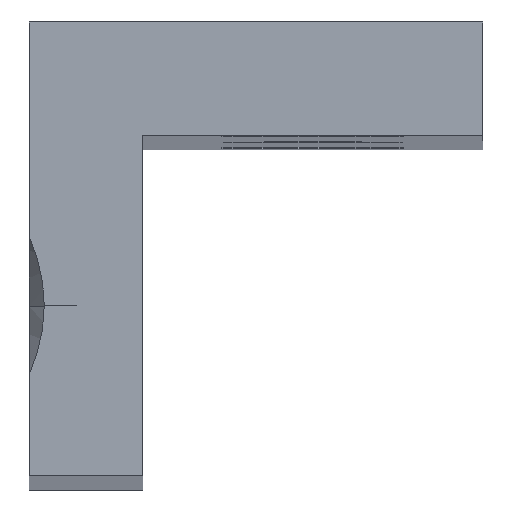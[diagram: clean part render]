
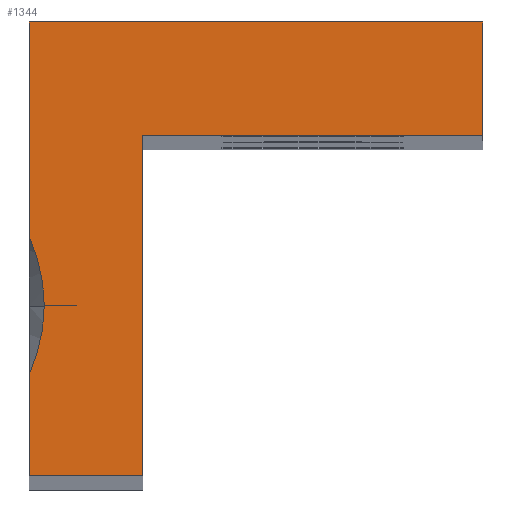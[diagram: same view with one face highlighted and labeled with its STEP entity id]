
A CAD part, top view. The second image highlights one B-rep face of the part: STEP entity #1344.
In plain terms, the highlighted planar face has unit normal (0, 0, 1).
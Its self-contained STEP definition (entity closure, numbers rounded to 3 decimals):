
#14 = CARTESIAN_POINT ( 'NONE',  ( -34.09, 29.629, 54. ) ) ;
#17 = EDGE_CURVE ( 'NONE', #1163, #19, #1199, .T. ) ;
#19 = VERTEX_POINT ( 'NONE', #438 ) ;
#22 = DIRECTION ( 'NONE',  ( 0., -1., 0. ) ) ;
#38 = CARTESIAN_POINT ( 'NONE',  ( -33.97, 30.087, 54. ) ) ;
#53 = CARTESIAN_POINT ( 'NONE',  ( -34.151, 31.317, 54. ) ) ;
#93 = AXIS2_PLACEMENT_3D ( 'NONE', #1129, #1522, #906 ) ;
#156 = ORIENTED_EDGE ( 'NONE', *, *, #213, .T. ) ;
#172 = EDGE_LOOP ( 'NONE', ( #695, #1554, #1563, #888, #569, #1530, #156, #1508, #747 ) ) ;
#175 = CARTESIAN_POINT ( 'NONE',  ( -34.151, 34.151, 54. ) ) ;
#188 = VERTEX_POINT ( 'NONE', #1123 ) ;
#208 = DIRECTION ( 'NONE',  ( 1., 0., 0. ) ) ;
#213 = EDGE_CURVE ( 'NONE', #1478, #1163, #1596, .T. ) ;
#233 = B_SPLINE_CURVE_WITH_KNOTS ( 'NONE', 3,
 ( #500, #1511, #38, #392, #14, #1266 ),
 .UNSPECIFIED., .F., .F.,
 ( 4, 2, 4 ),
 ( 0.008, 0.009, 0.009 ),
 .UNSPECIFIED. ) ;
#241 = VECTOR ( 'NONE', #22, 1000. ) ;
#260 = CARTESIAN_POINT ( 'NONE',  ( -32.651, 32.651, 54. ) ) ;
#277 = EDGE_CURVE ( 'NONE', #1342, #1242, #774, .T. ) ;
#291 = VECTOR ( 'NONE', #1460, 1000. ) ;
#380 = DIRECTION ( 'NONE',  ( 0., 1., 0. ) ) ;
#392 = CARTESIAN_POINT ( 'NONE',  ( -34.039, 29.781, 54. ) ) ;
#416 = CARTESIAN_POINT ( 'NONE',  ( -34.151, 31.317, 54. ) ) ;
#435 = CARTESIAN_POINT ( 'NONE',  ( -33.951, 30.401, 54. ) ) ;
#438 = CARTESIAN_POINT ( 'NONE',  ( -34.151, 34.151, 54. ) ) ;
#477 = DIRECTION ( 'NONE',  ( 0., 1., 0. ) ) ;
#479 = CARTESIAN_POINT ( 'NONE',  ( -28.151, 32.651, 54. ) ) ;
#500 = CARTESIAN_POINT ( 'NONE',  ( -33.951, 30.401, 54. ) ) ;
#516 = CARTESIAN_POINT ( 'NONE',  ( -34.151, 29.484, 54. ) ) ;
#529 = VERTEX_POINT ( 'NONE', #1058 ) ;
#534 = DIRECTION ( 'NONE',  ( 0., -1., 0. ) ) ;
#569 = ORIENTED_EDGE ( 'NONE', *, *, #1230, .T. ) ;
#579 = DIRECTION ( 'NONE',  ( 1., 0., 0. ) ) ;
#599 = CARTESIAN_POINT ( 'NONE',  ( -28.151, 34.151, 54. ) ) ;
#637 = PLANE ( 'NONE',  #93 ) ;
#695 = ORIENTED_EDGE ( 'NONE', *, *, #1448, .T. ) ;
#729 = CARTESIAN_POINT ( 'NONE',  ( -28.151, 34.151, 54. ) ) ;
#744 = VECTOR ( 'NONE', #579, 1000. ) ;
#747 = ORIENTED_EDGE ( 'NONE', *, *, #1302, .T. ) ;
#771 = LINE ( 'NONE', #1003, #1576 ) ;
#774 = LINE ( 'NONE', #175, #241 ) ;
#813 = LINE ( 'NONE', #1559, #744 ) ;
#888 = ORIENTED_EDGE ( 'NONE', *, *, #1500, .T. ) ;
#906 = DIRECTION ( 'NONE',  ( 1., 0., 0. ) ) ;
#924 = CARTESIAN_POINT ( 'NONE',  ( -34.09, 31.171, 54. ) ) ;
#948 = LINE ( 'NONE', #959, #1509 ) ;
#959 = CARTESIAN_POINT ( 'NONE',  ( -34.151, 28.151, 54. ) ) ;
#1003 = CARTESIAN_POINT ( 'NONE',  ( -34.151, 34.151, 54. ) ) ;
#1015 = FACE_OUTER_BOUND ( 'NONE', #172, .T. ) ;
#1058 = CARTESIAN_POINT ( 'NONE',  ( -32.651, 28.151, 54. ) ) ;
#1066 = EDGE_CURVE ( 'NONE', #1300, #1478, #813, .T. ) ;
#1123 = CARTESIAN_POINT ( 'NONE',  ( -33.951, 30.401, 54. ) ) ;
#1129 = CARTESIAN_POINT ( 'NONE',  ( 0., 0., 54. ) ) ;
#1161 = B_SPLINE_CURVE_WITH_KNOTS ( 'NONE', 3,
 ( #416, #924, #1426, #1418, #1189, #435 ),
 .UNSPECIFIED., .F., .F.,
 ( 4, 2, 4 ),
 ( 0.007, 0.008, 0.008 ),
 .UNSPECIFIED. ) ;
#1163 = VERTEX_POINT ( 'NONE', #729 ) ;
#1189 = CARTESIAN_POINT ( 'NONE',  ( -33.951, 30.558, 54. ) ) ;
#1199 = LINE ( 'NONE', #599, #291 ) ;
#1230 = EDGE_CURVE ( 'NONE', #529, #1300, #1488, .T. ) ;
#1242 = VERTEX_POINT ( 'NONE', #1505 ) ;
#1262 = EDGE_CURVE ( 'NONE', #188, #1342, #233, .T. ) ;
#1266 = CARTESIAN_POINT ( 'NONE',  ( -34.151, 29.484, 54. ) ) ;
#1300 = VERTEX_POINT ( 'NONE', #260 ) ;
#1302 = EDGE_CURVE ( 'NONE', #19, #1451, #771, .T. ) ;
#1342 = VERTEX_POINT ( 'NONE', #516 ) ;
#1344 = ADVANCED_FACE ( 'NONE', ( #1015 ), #637, .T. ) ;
#1366 = VECTOR ( 'NONE', #477, 1000. ) ;
#1418 = CARTESIAN_POINT ( 'NONE',  ( -33.97, 30.717, 54. ) ) ;
#1426 = CARTESIAN_POINT ( 'NONE',  ( -34.04, 31.022, 54. ) ) ;
#1448 = EDGE_CURVE ( 'NONE', #1451, #188, #1161, .T. ) ;
#1451 = VERTEX_POINT ( 'NONE', #53 ) ;
#1460 = DIRECTION ( 'NONE',  ( -1., 0., 0. ) ) ;
#1466 = CARTESIAN_POINT ( 'NONE',  ( -32.651, 28.151, 54. ) ) ;
#1478 = VERTEX_POINT ( 'NONE', #1565 ) ;
#1488 = LINE ( 'NONE', #1466, #1366 ) ;
#1500 = EDGE_CURVE ( 'NONE', #1242, #529, #948, .T. ) ;
#1505 = CARTESIAN_POINT ( 'NONE',  ( -34.151, 28.151, 54. ) ) ;
#1508 = ORIENTED_EDGE ( 'NONE', *, *, #17, .T. ) ;
#1509 = VECTOR ( 'NONE', #208, 1000. ) ;
#1511 = CARTESIAN_POINT ( 'NONE',  ( -33.951, 30.243, 54. ) ) ;
#1522 = DIRECTION ( 'NONE',  ( 0., 0., 1. ) ) ;
#1530 = ORIENTED_EDGE ( 'NONE', *, *, #1066, .T. ) ;
#1544 = VECTOR ( 'NONE', #380, 1000. ) ;
#1554 = ORIENTED_EDGE ( 'NONE', *, *, #1262, .T. ) ;
#1559 = CARTESIAN_POINT ( 'NONE',  ( -32.651, 32.651, 54. ) ) ;
#1563 = ORIENTED_EDGE ( 'NONE', *, *, #277, .T. ) ;
#1565 = CARTESIAN_POINT ( 'NONE',  ( -28.151, 32.651, 54. ) ) ;
#1576 = VECTOR ( 'NONE', #534, 1000. ) ;
#1596 = LINE ( 'NONE', #479, #1544 ) ;
